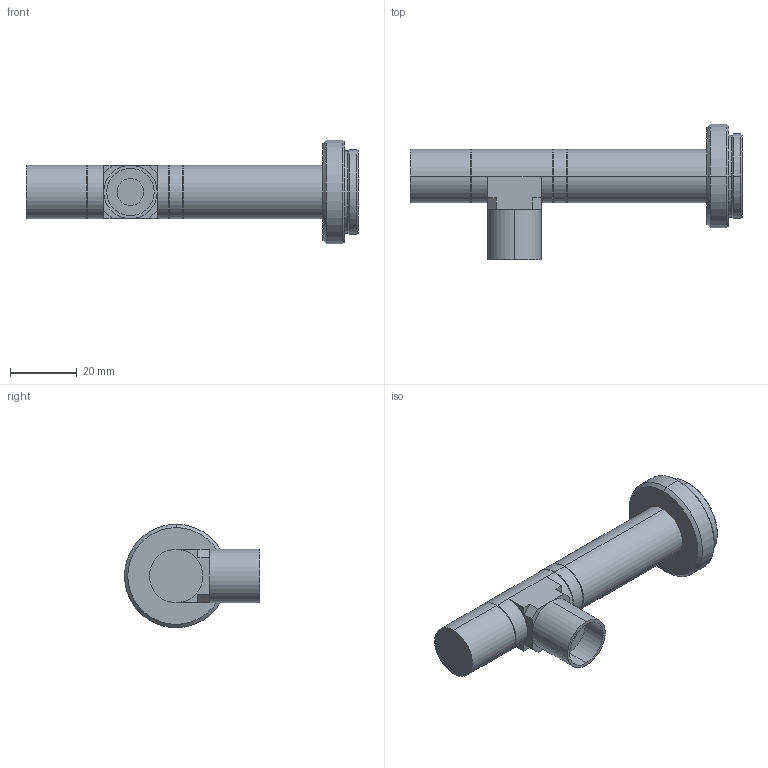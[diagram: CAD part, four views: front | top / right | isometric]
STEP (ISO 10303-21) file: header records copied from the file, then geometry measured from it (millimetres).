
FILE_DESCRIPTION (( 'STEP AP203' ), '1' );
FILE_NAME ('VS-TC8-65CO.STEP', '2015-01-21T00:22:28', ( 'miura_vst' ), ( '' ), 'SwSTEP 2.0', 'SolidWorks 2014', '' );
FILE_SCHEMA (( 'CONFIG_CONTROL_DESIGN' ));
Length unit declared in the file: millimetre
Products named in the file (1): VS-TC8-65CO
Bounding box: 99.5 x 40.5 x 31 mm (x, y, z)
Volume: 27081.1 mm3; surface area: 8432.4 mm2
Topology: 1 solids, 1 shells, 64 faces, 136 edges, 78 vertices
Faces by surface type: plane 23, cylinder 21, cone 20
Entity records: 1769 total; most frequent: DIRECTION 322, CARTESIAN_POINT 279, ORIENTED_EDGE 272, EDGE_CURVE 136, AXIS2_PLACEMENT_3D 121, VECTOR 80, LINE 80, VERTEX_POINT 78
